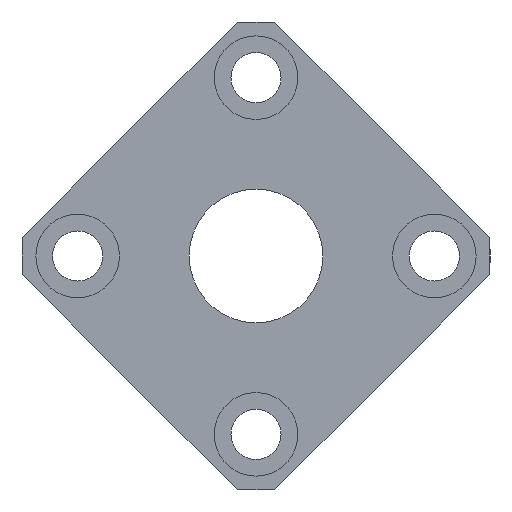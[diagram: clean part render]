
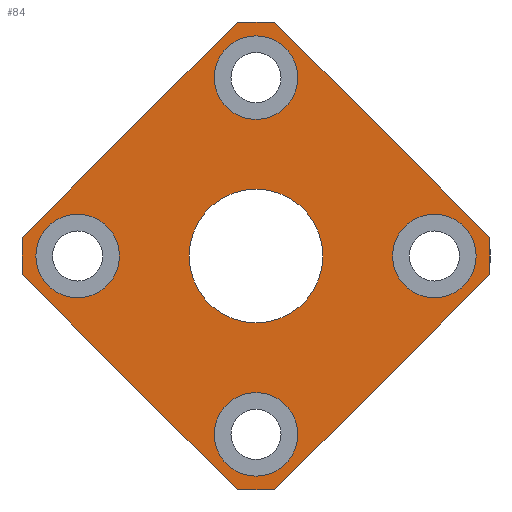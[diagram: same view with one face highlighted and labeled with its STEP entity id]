
A CAD part, left-side view. The second image highlights one B-rep face of the part: STEP entity #84.
In plain terms, the highlighted planar face has unit normal (-1, 0, 0).
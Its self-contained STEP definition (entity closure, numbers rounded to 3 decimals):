
#84 = ADVANCED_FACE( '', ( #125, #126, #127, #128, #129, #130 ), #131, .T. );
#125 = FACE_BOUND( '', #200, .T. );
#126 = FACE_BOUND( '', #201, .T. );
#127 = FACE_OUTER_BOUND( '', #202, .T. );
#128 = FACE_BOUND( '', #203, .T. );
#129 = FACE_BOUND( '', #204, .T. );
#130 = FACE_BOUND( '', #205, .T. );
#131 = PLANE( '', #206 );
#200 = EDGE_LOOP( '', ( #321 ) );
#201 = EDGE_LOOP( '', ( #322 ) );
#202 = EDGE_LOOP( '', ( #323, #324, #325, #326, #327, #328, #329, #330 ) );
#203 = EDGE_LOOP( '', ( #331 ) );
#204 = EDGE_LOOP( '', ( #332 ) );
#205 = EDGE_LOOP( '', ( #333 ) );
#206 = AXIS2_PLACEMENT_3D( '', #334, #335, #336 );
#321 = ORIENTED_EDGE( '', *, *, #444, .T. );
#322 = ORIENTED_EDGE( '', *, *, #434, .T. );
#323 = ORIENTED_EDGE( '', *, *, #445, .F. );
#324 = ORIENTED_EDGE( '', *, *, #430, .F. );
#325 = ORIENTED_EDGE( '', *, *, #419, .F. );
#326 = ORIENTED_EDGE( '', *, *, #427, .F. );
#327 = ORIENTED_EDGE( '', *, *, #415, .F. );
#328 = ORIENTED_EDGE( '', *, *, #429, .F. );
#329 = ORIENTED_EDGE( '', *, *, #423, .F. );
#330 = ORIENTED_EDGE( '', *, *, #443, .F. );
#331 = ORIENTED_EDGE( '', *, *, #446, .T. );
#332 = ORIENTED_EDGE( '', *, *, #447, .T. );
#333 = ORIENTED_EDGE( '', *, *, #448, .T. );
#334 = CARTESIAN_POINT( '', ( 0., 21., 0. ) );
#335 = DIRECTION( '', ( -1., 0., 0. ) );
#336 = DIRECTION( '', ( 0., 0., 1. ) );
#415 = EDGE_CURVE( '', #459, #461, #462, .T. );
#419 = EDGE_CURVE( '', #467, #469, #470, .T. );
#423 = EDGE_CURVE( '', #475, #477, #478, .T. );
#427 = EDGE_CURVE( '', #461, #467, #483, .T. );
#429 = EDGE_CURVE( '', #477, #459, #485, .T. );
#430 = EDGE_CURVE( '', #469, #486, #487, .T. );
#434 = EDGE_CURVE( '', #493, #493, #494, .F. );
#443 = EDGE_CURVE( '', #508, #475, #510, .T. );
#444 = EDGE_CURVE( '', #511, #511, #512, .T. );
#445 = EDGE_CURVE( '', #486, #508, #513, .T. );
#446 = EDGE_CURVE( '', #514, #514, #515, .T. );
#447 = EDGE_CURVE( '', #516, #516, #517, .T. );
#448 = EDGE_CURVE( '', #518, #518, #519, .T. );
#459 = VERTEX_POINT( '', #539 );
#461 = VERTEX_POINT( '', #542 );
#462 = LINE( '', #543, #544 );
#467 = VERTEX_POINT( '', #551 );
#469 = VERTEX_POINT( '', #554 );
#470 = LINE( '', #555, #556 );
#475 = VERTEX_POINT( '', #563 );
#477 = VERTEX_POINT( '', #566 );
#478 = LINE( '', #567, #568 );
#483 = CIRCLE( '', #575, 21. );
#485 = CIRCLE( '', #577, 21. );
#486 = VERTEX_POINT( '', #578 );
#487 = CIRCLE( '', #579, 21. );
#493 = VERTEX_POINT( '', #586 );
#494 = CIRCLE( '', #587, 3.75 );
#508 = VERTEX_POINT( '', #602 );
#510 = CIRCLE( '', #605, 21. );
#511 = VERTEX_POINT( '', #606 );
#512 = CIRCLE( '', #607, 6. );
#513 = LINE( '', #608, #609 );
#514 = VERTEX_POINT( '', #610 );
#515 = CIRCLE( '', #611, 3.75 );
#516 = VERTEX_POINT( '', #612 );
#517 = CIRCLE( '', #613, 3.75 );
#518 = VERTEX_POINT( '', #614 );
#519 = CIRCLE( '', #615, 3.75 );
#539 = CARTESIAN_POINT( '', ( 0., -20.931, -1.696 ) );
#542 = CARTESIAN_POINT( '', ( 0., -1.696, -20.931 ) );
#543 = CARTESIAN_POINT( '', ( 0., -22.627, 0. ) );
#544 = VECTOR( '', #635, 1000. );
#551 = CARTESIAN_POINT( '', ( 0., 1.696, -20.931 ) );
#554 = CARTESIAN_POINT( '', ( 0., 20.931, -1.696 ) );
#555 = CARTESIAN_POINT( '', ( 0., 0., -22.627 ) );
#556 = VECTOR( '', #639, 1000. );
#563 = CARTESIAN_POINT( '', ( 0., -1.696, 20.931 ) );
#566 = CARTESIAN_POINT( '', ( 0., -20.931, 1.696 ) );
#567 = CARTESIAN_POINT( '', ( 0., 0., 22.627 ) );
#568 = VECTOR( '', #643, 1000. );
#575 = AXIS2_PLACEMENT_3D( '', #649, #650, #651 );
#577 = AXIS2_PLACEMENT_3D( '', #655, #656, #657 );
#578 = CARTESIAN_POINT( '', ( 0., 20.931, 1.696 ) );
#579 = AXIS2_PLACEMENT_3D( '', #658, #659, #660 );
#586 = CARTESIAN_POINT( '', ( 0., 16., 3.75 ) );
#587 = AXIS2_PLACEMENT_3D( '', #668, #669, #670 );
#602 = CARTESIAN_POINT( '', ( 0., 1.696, 20.931 ) );
#605 = AXIS2_PLACEMENT_3D( '', #691, #692, #693 );
#606 = CARTESIAN_POINT( '', ( 0., 0., -6. ) );
#607 = AXIS2_PLACEMENT_3D( '', #694, #695, #696 );
#608 = CARTESIAN_POINT( '', ( 0., 22.627, 0. ) );
#609 = VECTOR( '', #697, 1000. );
#610 = CARTESIAN_POINT( '', ( 0., 0., 12.25 ) );
#611 = AXIS2_PLACEMENT_3D( '', #698, #699, #700 );
#612 = CARTESIAN_POINT( '', ( 0., 0., -19.75 ) );
#613 = AXIS2_PLACEMENT_3D( '', #701, #702, #703 );
#614 = CARTESIAN_POINT( '', ( 0., -16., -3.75 ) );
#615 = AXIS2_PLACEMENT_3D( '', #704, #705, #706 );
#635 = DIRECTION( '', ( 0., 0.707, -0.707 ) );
#639 = DIRECTION( '', ( 0., 0.707, 0.707 ) );
#643 = DIRECTION( '', ( 0., -0.707, -0.707 ) );
#649 = CARTESIAN_POINT( '', ( 0., 0., 0. ) );
#650 = DIRECTION( '', ( 1., 0., 0. ) );
#651 = DIRECTION( '', ( 0., 0., -1. ) );
#655 = CARTESIAN_POINT( '', ( 0., 0., 0. ) );
#656 = DIRECTION( '', ( 1., 0., 0. ) );
#657 = DIRECTION( '', ( 0., 0., -1. ) );
#658 = CARTESIAN_POINT( '', ( 0., 0., 0. ) );
#659 = DIRECTION( '', ( 1., 0., 0. ) );
#660 = DIRECTION( '', ( 0., 0., -1. ) );
#668 = CARTESIAN_POINT( '', ( 0., 16., 0. ) );
#669 = DIRECTION( '', ( -1., 0., 0. ) );
#670 = DIRECTION( '', ( 0., 0., 1. ) );
#691 = CARTESIAN_POINT( '', ( 0., 0., 0. ) );
#692 = DIRECTION( '', ( 1., 0., 0. ) );
#693 = DIRECTION( '', ( 0., 0., -1. ) );
#694 = CARTESIAN_POINT( '', ( 0., 0., 0. ) );
#695 = DIRECTION( '', ( 1., 0., 0. ) );
#696 = DIRECTION( '', ( 0., 0., -1. ) );
#697 = DIRECTION( '', ( 0., -0.707, 0.707 ) );
#698 = CARTESIAN_POINT( '', ( 0., 0., 16. ) );
#699 = DIRECTION( '', ( 1., 0., 0. ) );
#700 = DIRECTION( '', ( 0., 0., -1. ) );
#701 = CARTESIAN_POINT( '', ( 0., 0., -16. ) );
#702 = DIRECTION( '', ( 1., 0., 0. ) );
#703 = DIRECTION( '', ( 0., 0., -1. ) );
#704 = CARTESIAN_POINT( '', ( 0., -16., 0. ) );
#705 = DIRECTION( '', ( 1., 0., 0. ) );
#706 = DIRECTION( '', ( 0., 0., -1. ) );
